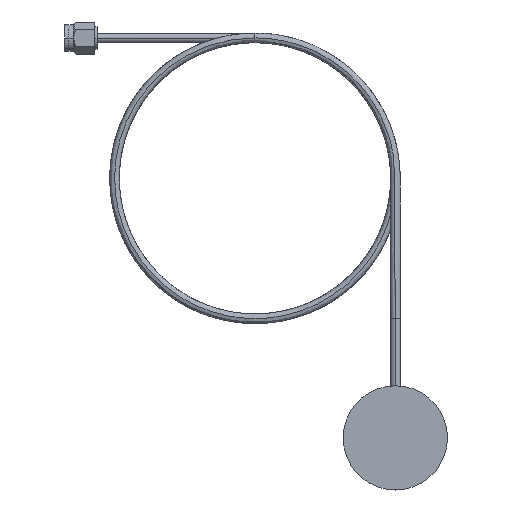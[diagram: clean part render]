
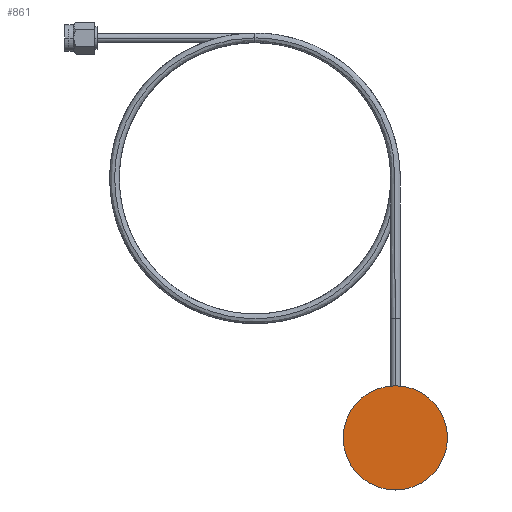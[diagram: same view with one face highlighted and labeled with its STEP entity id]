
A CAD part, top view. The second image highlights one B-rep face of the part: STEP entity #861.
In plain terms, the highlighted planar face has unit normal (0, 0, 1).
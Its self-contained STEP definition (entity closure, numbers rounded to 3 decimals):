
#861 = ADVANCED_FACE ( 'NONE', ( #12739 ), #7444, .F. ) ;
#2021 = AXIS2_PLACEMENT_3D ( 'NONE', #13047, #6974, #8884 ) ;
#2140 = CIRCLE ( 'NONE', #8479, 14.85 ) ;
#2553 = DIRECTION ( 'NONE',  ( 0., 0., -1. ) ) ;
#2776 = EDGE_LOOP ( 'NONE', ( #13615, #12865 ) ) ;
#3205 = EDGE_CURVE ( 'NONE', #9636, #10897, #2140, .T. ) ;
#3326 = CIRCLE ( 'NONE', #2021, 14.85 ) ;
#3540 = CARTESIAN_POINT ( 'NONE',  ( 14.85, 0., 214. ) ) ;
#5853 = AXIS2_PLACEMENT_3D ( 'NONE', #10482, #7318, #9710 ) ;
#6467 = CARTESIAN_POINT ( 'NONE',  ( 0., 0., 214. ) ) ;
#6974 = DIRECTION ( 'NONE',  ( 0., 0., -1. ) ) ;
#7318 = DIRECTION ( 'NONE',  ( 0., 0., -1. ) ) ;
#7444 = PLANE ( 'NONE',  #5853 ) ;
#8479 = AXIS2_PLACEMENT_3D ( 'NONE', #6467, #2553, #11760 ) ;
#8884 = DIRECTION ( 'NONE',  ( -1., 0., 0. ) ) ;
#9324 = EDGE_CURVE ( 'NONE', #10897, #9636, #3326, .T. ) ;
#9636 = VERTEX_POINT ( 'NONE', #3540 ) ;
#9710 = DIRECTION ( 'NONE',  ( -1., 0., 0. ) ) ;
#10482 = CARTESIAN_POINT ( 'NONE',  ( 14.85, 0., 214. ) ) ;
#10897 = VERTEX_POINT ( 'NONE', #12884 ) ;
#11760 = DIRECTION ( 'NONE',  ( -1., 0., 0. ) ) ;
#12739 = FACE_OUTER_BOUND ( 'NONE', #2776, .T. ) ;
#12865 = ORIENTED_EDGE ( 'NONE', *, *, #3205, .F. ) ;
#12884 = CARTESIAN_POINT ( 'NONE',  ( -14.85, 0., 214. ) ) ;
#13047 = CARTESIAN_POINT ( 'NONE',  ( 0., 0., 214. ) ) ;
#13615 = ORIENTED_EDGE ( 'NONE', *, *, #9324, .F. ) ;
